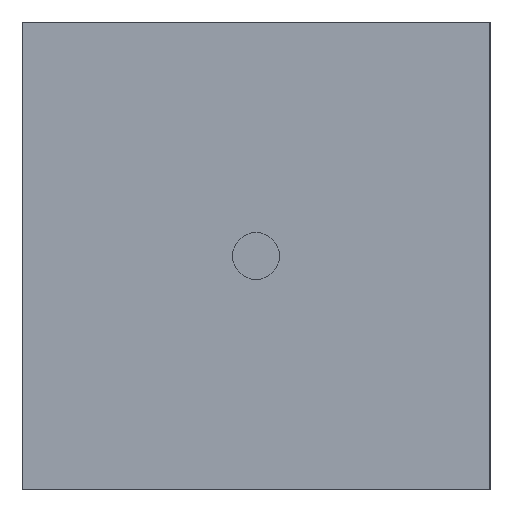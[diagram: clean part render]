
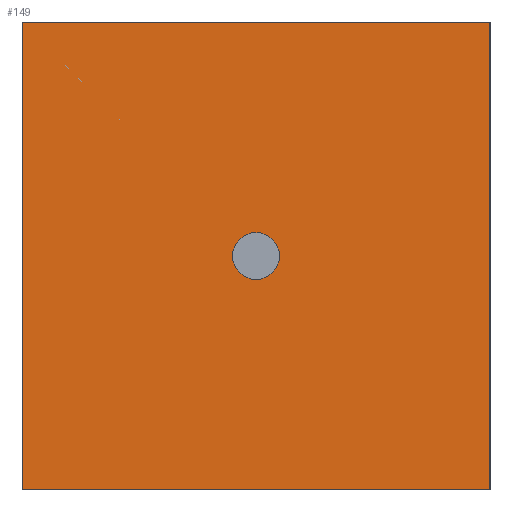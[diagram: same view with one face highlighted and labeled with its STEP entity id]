
A CAD part, left-side view. The second image highlights one B-rep face of the part: STEP entity #149.
In plain terms, the highlighted planar face has unit normal (-1, 0, 0).
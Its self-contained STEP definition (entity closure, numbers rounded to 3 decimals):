
#29=FACE_OUTER_BOUND('',#41,.T.);
#41=EDGE_LOOP('',(#113,#114,#115,#116));
#59=LINE('',#240,#71);
#60=LINE('',#243,#72);
#61=LINE('',#245,#73);
#62=LINE('',#246,#74);
#71=VECTOR('',#191,8.);
#72=VECTOR('',#194,8.);
#73=VECTOR('',#195,8.);
#74=VECTOR('',#196,8.);
#81=VERTEX_POINT('',#236);
#82=VERTEX_POINT('',#238);
#83=VERTEX_POINT('',#242);
#84=VERTEX_POINT('',#244);
#95=EDGE_CURVE('',#81,#82,#59,.T.);
#96=EDGE_CURVE('',#81,#83,#60,.T.);
#97=EDGE_CURVE('',#84,#82,#61,.T.);
#98=EDGE_CURVE('',#83,#84,#62,.T.);
#113=ORIENTED_EDGE('',*,*,#96,.F.);
#114=ORIENTED_EDGE('',*,*,#95,.T.);
#115=ORIENTED_EDGE('',*,*,#97,.F.);
#116=ORIENTED_EDGE('',*,*,#98,.F.);
#139=PLANE('',#165);
#149=ADVANCED_FACE('',(#29),#139,.T.);
#165=AXIS2_PLACEMENT_3D('',#241,#192,#193);
#191=DIRECTION('',(0.,1.,0.));
#192=DIRECTION('center_axis',(-1.,0.,0.));
#193=DIRECTION('ref_axis',(0.,0.,1.));
#194=DIRECTION('',(0.,0.,-1.));
#195=DIRECTION('',(0.,0.,1.));
#196=DIRECTION('',(0.,1.,0.));
#236=CARTESIAN_POINT('',(0.,0.,8.));
#238=CARTESIAN_POINT('',(0.,8.,8.));
#240=CARTESIAN_POINT('',(0.,0.,8.));
#241=CARTESIAN_POINT('Origin',(0.,0.,0.));
#242=CARTESIAN_POINT('',(0.,0.,0.));
#243=CARTESIAN_POINT('',(0.,0.,8.));
#244=CARTESIAN_POINT('',(0.,8.,0.));
#245=CARTESIAN_POINT('',(0.,8.,8.));
#246=CARTESIAN_POINT('',(0.,0.,0.));
